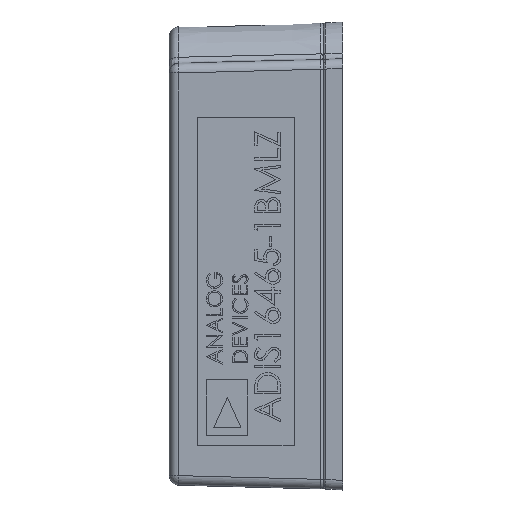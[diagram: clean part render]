
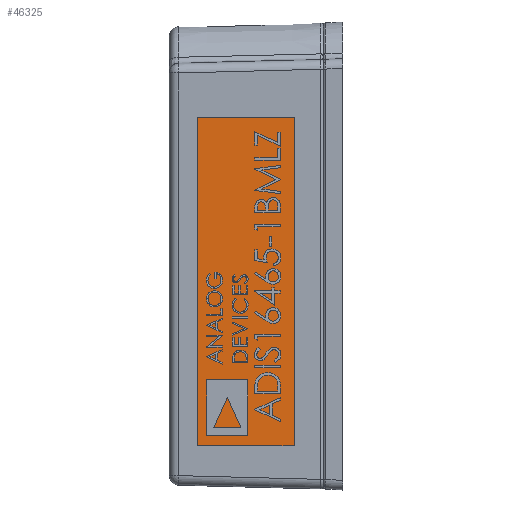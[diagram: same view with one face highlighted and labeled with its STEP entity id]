
A CAD part, left-side view. The second image highlights one B-rep face of the part: STEP entity #46325.
In plain terms, the highlighted planar face has unit normal (-1, 0.026, 0) as drawn and (1, -0.026, 0) by its records, which use the part's own axes.
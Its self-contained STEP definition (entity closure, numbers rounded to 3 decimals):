
#926 = DIRECTION ( 'NONE',  ( -0.026, -1., 0. ) ) ;
#1024 = VERTEX_POINT ( 'NONE', #28922 ) ;
#2469 = EDGE_CURVE ( 'NONE', #33569, #1024, #50971, .T. ) ;
#2516 = VECTOR ( 'NONE', #11129, 1000. ) ;
#3521 = LINE ( 'NONE', #60459, #29911 ) ;
#4194 = DIRECTION ( 'NONE',  ( 1., -0.026, 0. ) ) ;
#4970 = CARTESIAN_POINT ( 'NONE',  ( 11.21, 6.477, -9.206 ) ) ;
#6633 = CARTESIAN_POINT ( 'NONE',  ( 11.21, 6.477, -9.206 ) ) ;
#7401 = VECTOR ( 'NONE', #926, 1000. ) ;
#8469 = DIRECTION ( 'NONE',  ( 0.026, 1., 0. ) ) ;
#8544 = ORIENTED_EDGE ( 'NONE', *, *, #2469, .T. ) ;
#9264 = EDGE_CURVE ( 'NONE', #20801, #43030, #3521, .T. ) ;
#11129 = DIRECTION ( 'NONE',  ( 0., 0., 1. ) ) ;
#12986 = PLANE ( 'NONE',  #21445 ) ;
#13288 = LINE ( 'NONE', #37568, #7401 ) ;
#15158 = EDGE_LOOP ( 'NONE', ( #33800, #8544, #53144, #44882 ) ) ;
#15255 = CARTESIAN_POINT ( 'NONE',  ( 11.079, 1.459, -9.206 ) ) ;
#15461 = DIRECTION ( 'NONE',  ( 0.026, 1., 0. ) ) ;
#18013 = CARTESIAN_POINT ( 'NONE',  ( 11.079, 1.459, -9.206 ) ) ;
#18966 = EDGE_CURVE ( 'NONE', #43030, #33569, #57684, .T. ) ;
#20801 = VERTEX_POINT ( 'NONE', #30262 ) ;
#21445 = AXIS2_PLACEMENT_3D ( 'NONE', #45809, #4194, #8469 ) ;
#28922 = CARTESIAN_POINT ( 'NONE',  ( 11.21, 6.477, 7.841 ) ) ;
#29911 = VECTOR ( 'NONE', #46331, 1000. ) ;
#30262 = CARTESIAN_POINT ( 'NONE',  ( 11.079, 1.459, 7.841 ) ) ;
#33569 = VERTEX_POINT ( 'NONE', #4970 ) ;
#33800 = ORIENTED_EDGE ( 'NONE', *, *, #18966, .T. ) ;
#37568 = CARTESIAN_POINT ( 'NONE',  ( 11.079, 1.459, 7.841 ) ) ;
#41017 = FACE_OUTER_BOUND ( 'NONE', #15158, .T. ) ;
#41360 = EDGE_CURVE ( 'NONE', #1024, #20801, #13288, .T. ) ;
#43030 = VERTEX_POINT ( 'NONE', #18013 ) ;
#44882 = ORIENTED_EDGE ( 'NONE', *, *, #9264, .T. ) ;
#45809 = CARTESIAN_POINT ( 'NONE',  ( 11.033, -0.289, 0. ) ) ;
#46325 = ADVANCED_FACE ( 'NONE', ( #41017 ), #12986, .T. ) ;
#46331 = DIRECTION ( 'NONE',  ( 0., 0., -1. ) ) ;
#49600 = VECTOR ( 'NONE', #15461, 1000. ) ;
#50971 = LINE ( 'NONE', #6633, #2516 ) ;
#53144 = ORIENTED_EDGE ( 'NONE', *, *, #41360, .T. ) ;
#57684 = LINE ( 'NONE', #15255, #49600 ) ;
#60459 = CARTESIAN_POINT ( 'NONE',  ( 11.079, 1.459, -9.206 ) ) ;
